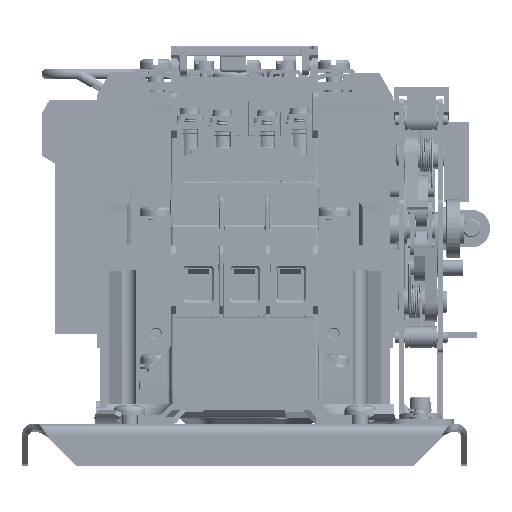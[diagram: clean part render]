
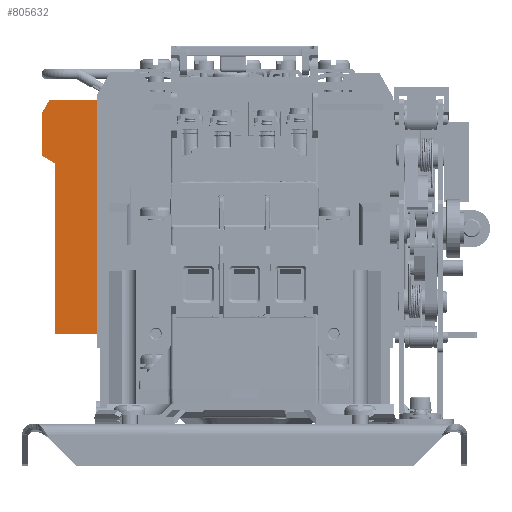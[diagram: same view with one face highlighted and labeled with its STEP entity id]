
A CAD part, top view. The second image highlights one B-rep face of the part: STEP entity #805632.
In plain terms, the highlighted planar face has unit normal (0, 0, 1) as drawn and (-1, 0, 0) by its records, which use the part's own axes.
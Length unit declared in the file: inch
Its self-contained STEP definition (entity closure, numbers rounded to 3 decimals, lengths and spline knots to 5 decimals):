
#789449=DIRECTION('',(0.,0.,-1.));
#789450=VECTOR('',#789449,2.037);
#789451=CARTESIAN_POINT('',(-0.436,-0.444,1.297));
#789452=LINE('',#789451,#789450);
#789453=DIRECTION('',(0.,0.857,0.514));
#789454=VECTOR('',#789453,0.17493);
#789455=CARTESIAN_POINT('',(-0.436,-0.594,-0.83));
#789456=LINE('',#789455,#789454);
#789457=DIRECTION('',(0.,0.,-1.));
#789458=VECTOR('',#789457,0.51412);
#789459=CARTESIAN_POINT('',(-0.436,-0.594,-0.83));
#789460=LINE('',#789459,#789458);
#789461=DIRECTION('',(0.,-0.5,0.866));
#789462=VECTOR('',#789461,0.18);
#789463=CARTESIAN_POINT('',(-0.436,-0.504,-1.5));
#789464=LINE('',#789463,#789462);
#789465=DIRECTION('',(0.,1.,0.));
#789466=VECTOR('',#789465,0.56);
#789467=CARTESIAN_POINT('',(-0.436,-0.504,-1.5));
#789468=LINE('',#789467,#789466);
#789469=DIRECTION('',(0.,0.,1.));
#789470=VECTOR('',#789469,2.797);
#789471=CARTESIAN_POINT('',(-0.436,0.056,-1.5));
#789472=LINE('',#789471,#789470);
#789473=DIRECTION('',(0.,-1.,0.));
#789474=VECTOR('',#789473,0.5);
#789475=CARTESIAN_POINT('',(-0.436,0.056,1.297));
#789476=LINE('',#789475,#789474);
#801614=CARTESIAN_POINT('',(-0.436,0.056,-1.5));
#801615=CARTESIAN_POINT('',(-0.436,0.056,1.297));
#801616=VERTEX_POINT('',#801614);
#801617=VERTEX_POINT('',#801615);
#801622=CARTESIAN_POINT('',(-0.436,-0.504,-1.5));
#801623=CARTESIAN_POINT('',(-0.436,-0.594,-1.34412));
#801624=VERTEX_POINT('',#801622);
#801625=VERTEX_POINT('',#801623);
#801658=CARTESIAN_POINT('',(-0.436,-0.444,1.297));
#801659=CARTESIAN_POINT('',(-0.436,-0.444,-0.74));
#801660=VERTEX_POINT('',#801658);
#801661=VERTEX_POINT('',#801659);
#801662=CARTESIAN_POINT('',(-0.436,-0.594,-0.83));
#801663=VERTEX_POINT('',#801662);
#805611=CARTESIAN_POINT('',(-0.436,0.,0.));
#805612=DIRECTION('',(1.,0.,0.));
#805613=DIRECTION('',(0.,0.,-1.));
#805614=AXIS2_PLACEMENT_3D('',#805611,#805612,#805613);
#805615=PLANE('',#805614);
#805617=ORIENTED_EDGE('',*,*,#805616,.T.);
#805619=ORIENTED_EDGE('',*,*,#805618,.F.);
#805621=ORIENTED_EDGE('',*,*,#805620,.T.);
#805623=ORIENTED_EDGE('',*,*,#805622,.F.);
#805625=ORIENTED_EDGE('',*,*,#805624,.T.);
#805627=ORIENTED_EDGE('',*,*,#805626,.T.);
#805629=ORIENTED_EDGE('',*,*,#805628,.T.);
#805630=EDGE_LOOP('',(#805617,#805619,#805621,#805623,#805625,#805627,#805629));
#805631=FACE_OUTER_BOUND('',#805630,.F.);
#805632=ADVANCED_FACE('',(#805631),#805615,.F.);
#805616=EDGE_CURVE('',#801660,#801661,#789452,.T.);
#805618=EDGE_CURVE('',#801663,#801661,#789456,.T.);
#805620=EDGE_CURVE('',#801663,#801625,#789460,.T.);
#805622=EDGE_CURVE('',#801624,#801625,#789464,.T.);
#805624=EDGE_CURVE('',#801624,#801616,#789468,.T.);
#805626=EDGE_CURVE('',#801616,#801617,#789472,.T.);
#805628=EDGE_CURVE('',#801617,#801660,#789476,.T.);
